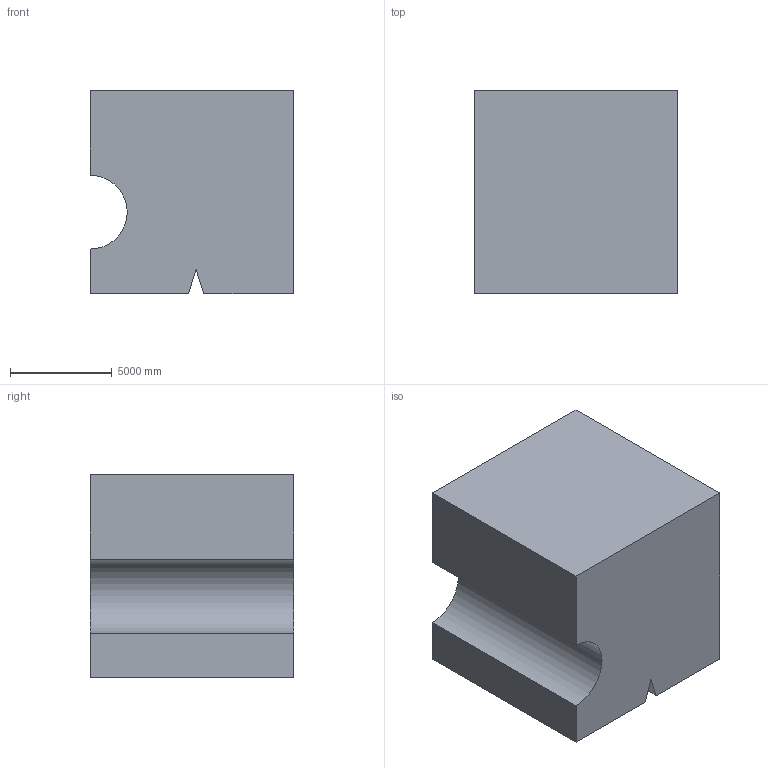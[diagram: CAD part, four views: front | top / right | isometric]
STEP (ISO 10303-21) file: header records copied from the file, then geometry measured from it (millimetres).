
FILE_DESCRIPTION (( 'STEP AP203' ), '1' );
FILE_NAME ('13.STEP', '2022-09-01T11:36:18', ( 'user' ), ( '' ), 'SwSTEP 2.0', 'SolidWorks 2021', '' );
FILE_SCHEMA (( 'CONFIG_CONTROL_DESIGN' ));
Length unit declared in the file: centimetre
Products named in the file (1): 13
Bounding box: 10000 x 10000 x 10000 mm (x, y, z)
Volume: 943863747597.6 mm3; surface area: 626952827.6 mm2
Topology: 1 solids, 1 shells, 11 faces, 27 edges, 18 vertices
Faces by surface type: plane 10, cylinder 1
Entity records: 400 total; most frequent: CARTESIAN_POINT 57, ORIENTED_EDGE 54, DIRECTION 53, EDGE_CURVE 27, VECTOR 25, LINE 25, VERTEX_POINT 18, AXIS2_PLACEMENT_3D 14
